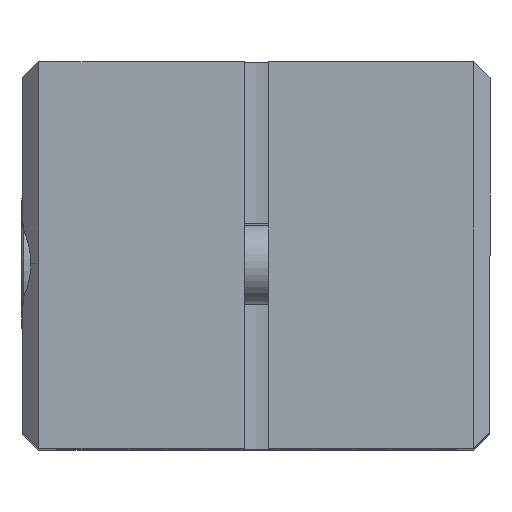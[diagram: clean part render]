
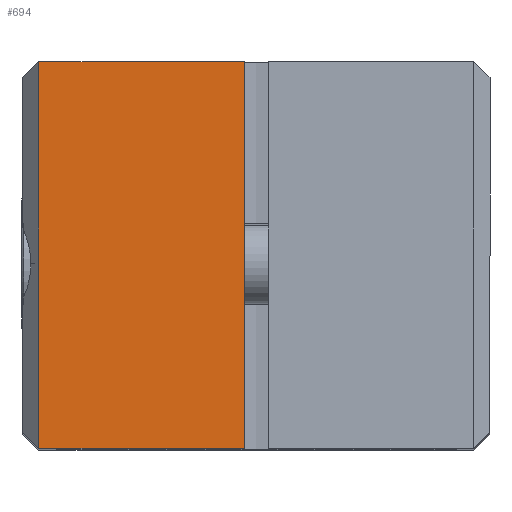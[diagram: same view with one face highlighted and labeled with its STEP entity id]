
A CAD part, top view. The second image highlights one B-rep face of the part: STEP entity #694.
In plain terms, the highlighted planar face has unit normal (0, 0, 1).
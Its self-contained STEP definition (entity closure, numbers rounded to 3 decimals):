
#529 = EDGE_LOOP ( 'NONE', ( #534, #2813, #4708, #2099 ) ) ;
#534 = ORIENTED_EDGE ( 'NONE', *, *, #2178, .T. ) ;
#551 = CARTESIAN_POINT ( 'NONE',  ( -0.75, 12., 69. ) ) ;
#675 = VECTOR ( 'NONE', #5953, 1000. ) ;
#694 = ADVANCED_FACE ( 'NONE', ( #782 ), #6220, .T. ) ;
#782 = FACE_OUTER_BOUND ( 'NONE', #529, .T. ) ;
#1232 = LINE ( 'NONE', #6488, #675 ) ;
#1378 = VERTEX_POINT ( 'NONE', #551 ) ;
#1851 = DIRECTION ( 'NONE',  ( 0., -1., 0. ) ) ;
#1866 = LINE ( 'NONE', #1958, #5193 ) ;
#1958 = CARTESIAN_POINT ( 'NONE',  ( 14.5, 12., 69. ) ) ;
#2055 = DIRECTION ( 'NONE',  ( 0., 0., 1. ) ) ;
#2099 = ORIENTED_EDGE ( 'NONE', *, *, #6412, .F. ) ;
#2178 = EDGE_CURVE ( 'NONE', #1378, #2613, #1866, .T. ) ;
#2581 = VERTEX_POINT ( 'NONE', #4289 ) ;
#2613 = VERTEX_POINT ( 'NONE', #3766 ) ;
#2741 = DIRECTION ( 'NONE',  ( -1., 0., 0. ) ) ;
#2813 = ORIENTED_EDGE ( 'NONE', *, *, #7189, .T. ) ;
#3142 = VECTOR ( 'NONE', #1851, 1000. ) ;
#3646 = CARTESIAN_POINT ( 'NONE',  ( -0.75, -12., 69. ) ) ;
#3668 = CARTESIAN_POINT ( 'NONE',  ( -13.5, 12., 69. ) ) ;
#3766 = CARTESIAN_POINT ( 'NONE',  ( -13.5, 12., 69. ) ) ;
#4077 = VECTOR ( 'NONE', #7323, 1000. ) ;
#4289 = CARTESIAN_POINT ( 'NONE',  ( -0.75, -12., 69. ) ) ;
#4708 = ORIENTED_EDGE ( 'NONE', *, *, #7535, .T. ) ;
#5193 = VECTOR ( 'NONE', #2741, 1000. ) ;
#5648 = CARTESIAN_POINT ( 'NONE',  ( 0., 0., 69. ) ) ;
#5730 = VERTEX_POINT ( 'NONE', #7275 ) ;
#5953 = DIRECTION ( 'NONE',  ( 1., 0., 0. ) ) ;
#5988 = LINE ( 'NONE', #3646, #4077 ) ;
#6220 = PLANE ( 'NONE',  #6885 ) ;
#6412 = EDGE_CURVE ( 'NONE', #1378, #2581, #5988, .T. ) ;
#6488 = CARTESIAN_POINT ( 'NONE',  ( 14.5, -12., 69. ) ) ;
#6885 = AXIS2_PLACEMENT_3D ( 'NONE', #5648, #2055, #7004 ) ;
#7004 = DIRECTION ( 'NONE',  ( 1., 0., 0. ) ) ;
#7189 = EDGE_CURVE ( 'NONE', #2613, #5730, #7494, .T. ) ;
#7275 = CARTESIAN_POINT ( 'NONE',  ( -13.5, -12., 69. ) ) ;
#7323 = DIRECTION ( 'NONE',  ( 0., -1., 0. ) ) ;
#7494 = LINE ( 'NONE', #3668, #3142 ) ;
#7535 = EDGE_CURVE ( 'NONE', #5730, #2581, #1232, .T. ) ;
